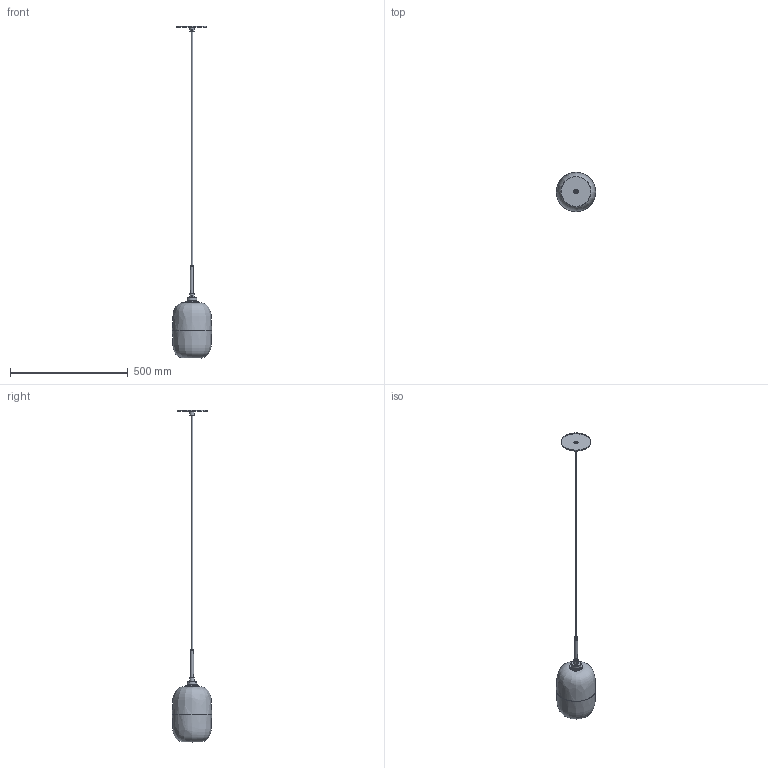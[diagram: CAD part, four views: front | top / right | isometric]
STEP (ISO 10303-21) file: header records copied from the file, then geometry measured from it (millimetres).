
FILE_DESCRIPTION(/* description */ (''),/* implementation_level */ '2;1');
FILE_NAME(/* name */ 'C:/Users/zach/Niche/Product Development - Documents/CAD Models/Pendants/Haze/Glass - Luxe Hardware/Niche - Haze Pendant.step',/* time_stamp */ '2022-06-22T09:46:45-04:00',/* author */ (''),/* organization */ (''),/* preprocessor_version */ 'ST-DEVELOPER v19',/* originating_system */ 'Autodesk Translation Framework v11.7.0.108',/* authorisation */ '');
FILE_SCHEMA (('AUTOMOTIVE_DESIGN { 1 0 10303 214 3 1 1 }'));
Length unit declared in the file: inch
Products named in the file (1): Encalmo Grand
Bounding box: 166.13 x 166.13 x 1406.88 mm (x, y, z)
Volume: 603652 mm3; surface area: 372095.5 mm2
Topology: 13 solids, 13 shells, 237 faces, 613 edges, 407 vertices
Faces by surface type: cylinder 155, plane 60, bspline 18, cone 3, sphere 1
Full cylindrical faces by diameter (mm): 4.355 x4, 4.529 x1, 4.927 x9, 5.08 x1, 6.096 x1, 6.35 x1, 6.5 x1, 7.62 x1, 7.744 x3, 8.036 x15, 8.852 x1, 8.884 x6, 9.035 x1, 9.146 x7, 10.16 x1, 12.7 x2, 19.05 x1, 19.2 x1, 25.4 x1, 26.022 x1, 34.97 x1, 35.052 x9, 37.85 x8, 38.138 x1, 39 x1, 39.35 x1, 41.035 x1, 41.2 x1, 41.884 x1, 44 x1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
Entity records: 18096 total; most frequent: CARTESIAN_POINT 12776, ORIENTED_EDGE 1224, DIRECTION 847, EDGE_CURVE 612, VERTEX_POINT 407, AXIS2_PLACEMENT_3D 315, B_SPLINE_CURVE_WITH_KNOTS 296, EDGE_LOOP 269
